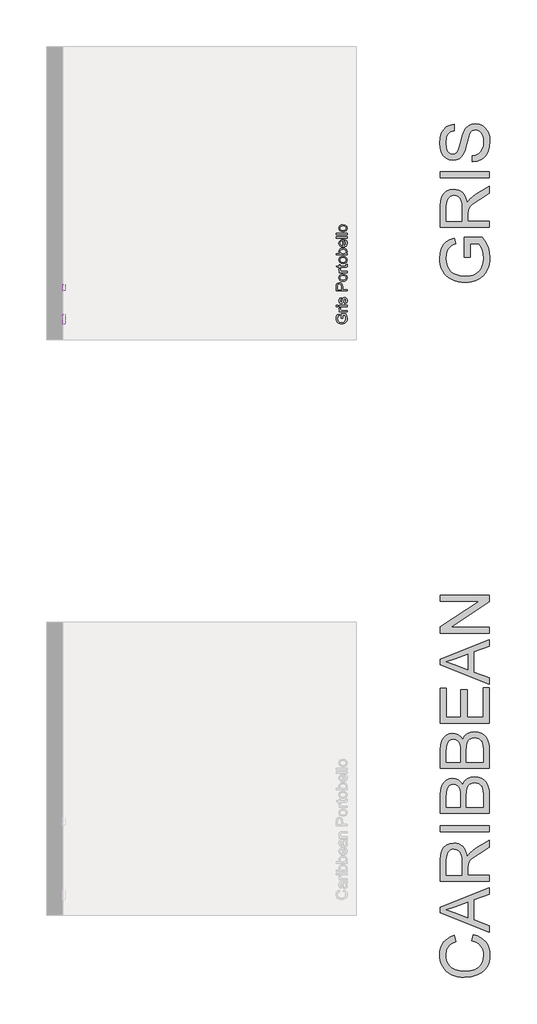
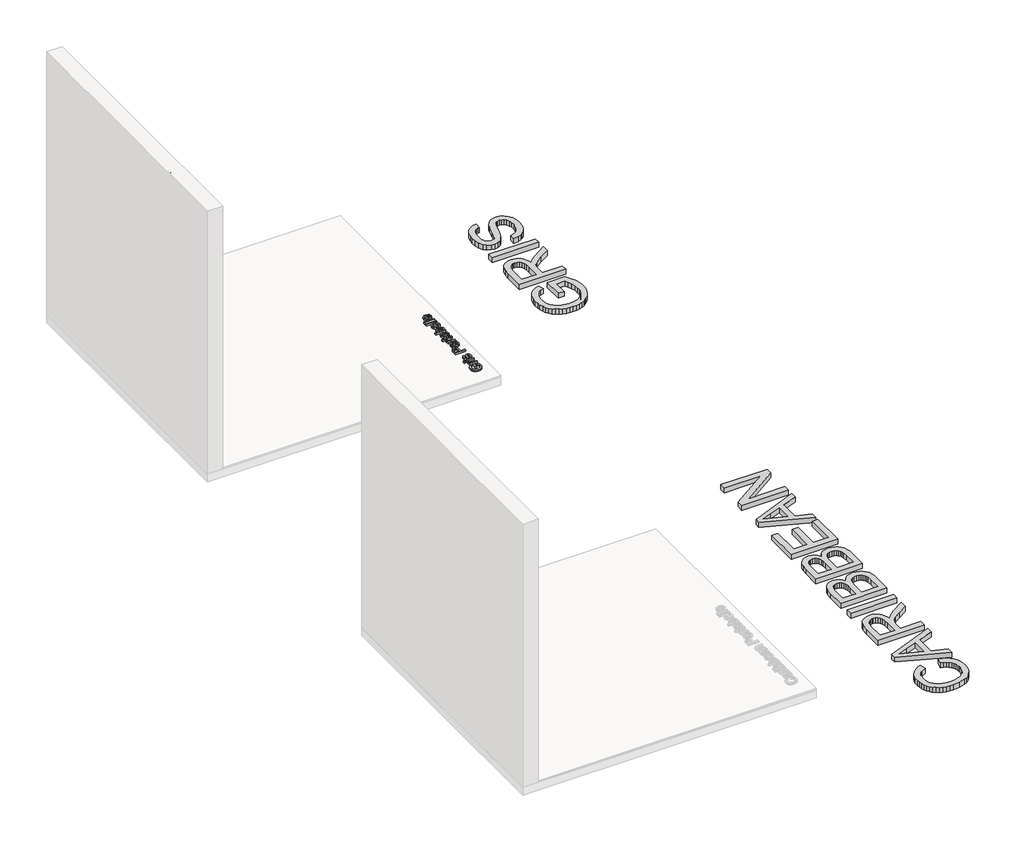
# One storey, part 4 of 7: 6 proxies.
"""IFC4 building model written with IfcOpenShell, lengths in millimetres."""

import ifcopenshell
import ifcopenshell.guid

model = None  # the IFC model being written
_history = None  # IfcOwnerHistory: only IFC2X3 demands one
_inside = {}  # id of a spatial element -> (the spatial element, [elements in it])
_under = {}  # id of a project, library or spatial element -> (it, [spatial elements below it])
_declared = {}  # id of a project -> (the project, [libraries it declares])
_typed = {}  # id of a type object -> (the type object, [elements of that type])
_made_of = {}  # id of a material, layer set ... -> (it, [elements and type objects made of it])


def new_model(schema):
    """Start an empty IFC model of exactly this schema.

    Asked for "IFC4X3", IfcOpenShell would pick the latest addendum, in which some entities
    have other attributes; the version numbers below select the first issue.
    IFC2X3 requires an IfcOwnerHistory on every rooted entity: one is made here for all.
    """
    global model, _history
    if schema == "IFC4X3":
        model = ifcopenshell.file(schema_version=(4, 3, 0, 0))
    else:
        model = ifcopenshell.file(schema=schema)
    _inside.clear()
    _under.clear()
    _declared.clear()
    _typed.clear()
    _made_of.clear()
    _history = None
    if model.schema == "IFC2X3":
        org = make("IfcOrganization", Name="unknown")
        user = make(
            "IfcPersonAndOrganization",
            ThePerson=make("IfcPerson", FamilyName="unknown"),
            TheOrganization=org,
        )
        app = make(
            "IfcApplication",
            ApplicationDeveloper=org,
            Version="unknown",
            ApplicationFullName="unknown",
            ApplicationIdentifier="unknown",
        )
        _history = make(
            "IfcOwnerHistory",
            OwningUser=user,
            OwningApplication=app,
            ChangeAction="ADDED",
            CreationDate=0,
        )
    return model


def make(cls, **values):
    """One entity of the class cls with the attributes given. An attribute that is None is left unset."""
    return model.create_entity(
        cls, **{name: value for name, value in values.items() if value is not None}
    )


def rooted(cls, **values):
    """An entity with a GlobalId (a new one), such as an element, a storey or a relation."""
    return make(cls, GlobalId=ifcopenshell.guid.new(), OwnerHistory=_history, **values)


def si_unit(unit_type, name, prefix=None):
    """IfcSIUnit, for example si_unit("LENGTHUNIT", "METRE", prefix="MILLI")."""
    return make("IfcSIUnit", UnitType=unit_type, Prefix=prefix, Name=name)


def assignment(units):
    """IfcUnitAssignment: the units of a project."""
    return None if units is None else make("IfcUnitAssignment", Units=units)


def point(xyz):
    """IfcCartesianPoint."""
    return None if xyz is None else make("IfcCartesianPoint", Coordinates=xyz)


def direction(xyz):
    """IfcDirection."""
    return None if xyz is None else make("IfcDirection", DirectionRatios=xyz)


def frame(location, z_axis=None, x_axis=None):
    """IfcAxis2Placement3D, a coordinate frame: its origin and axes. An axis left out is left unset."""
    return make(
        "IfcAxis2Placement3D",
        Location=point(location),
        Axis=direction(z_axis),
        RefDirection=direction(x_axis),
    )


def origin():
    """The frame at (0, 0, 0) with its axes left unset."""
    return frame((0.0, 0.0, 0.0))


def origin_with_axes():
    """The frame at (0, 0, 0) with the z axis (0, 0, 1) and the x axis (1, 0, 0) written out."""
    return frame((0.0, 0.0, 0.0), z_axis=(0.0, 0.0, 1.0), x_axis=(1.0, 0.0, 0.0))


def place(relative_to, where):
    """IfcLocalPlacement: puts the frame where relative to a parent placement (None: the world)."""
    return make(
        "IfcLocalPlacement", PlacementRelTo=relative_to, RelativePlacement=where
    )


def context(
    kind, dimensions, precision=None, world=None, true_north=None, identifier=None
):
    """IfcGeometricRepresentationContext, for example the 3D "Model" context."""
    return make(
        "IfcGeometricRepresentationContext",
        ContextIdentifier=identifier,
        ContextType=kind,
        CoordinateSpaceDimension=dimensions,
        Precision=precision,
        WorldCoordinateSystem=world,
        TrueNorth=true_north,
    )


def project(units=None, contexts=None):
    """IfcProject with its units and contexts."""
    return rooted(
        "IfcProject",
        Name="project",
        RepresentationContexts=contexts,
        UnitsInContext=assignment(units),
    )


def spatial(cls, under=None, at=None, **own):
    """A site, building, storey or space (cls), placed at a placement, below another one or the project."""
    s = rooted(cls, ObjectPlacement=at, **own)
    if under is not None:
        _under.setdefault(under.id(), (under, []))[1].append(s)
    return s


def polyline(points):
    """IfcPolyline through the points."""
    return make("IfcPolyline", Points=[point(p) for p in points])


def outline(outer, holes=None, kind="AREA"):
    """IfcArbitraryClosedProfileDef: a profile drawn as a closed curve; with holes, ...WithVoids."""
    if holes is None:
        return make("IfcArbitraryClosedProfileDef", ProfileType=kind, OuterCurve=outer)
    return make(
        "IfcArbitraryProfileDefWithVoids",
        ProfileType=kind,
        OuterCurve=outer,
        InnerCurves=holes,
    )


def extrude(swept, where, along, depth):
    """IfcExtrudedAreaSolid: the profile swept, set in the frame where, extruded along a direction by depth."""
    return make(
        "IfcExtrudedAreaSolid",
        SweptArea=swept,
        Position=where,
        ExtrudedDirection=direction(along),
        Depth=depth,
    )


def shape(context_of_items, identifier, shape_type, items):
    """IfcShapeRepresentation: the items that make up one representation, for example the "Body"."""
    return make(
        "IfcShapeRepresentation",
        ContextOfItems=context_of_items,
        RepresentationIdentifier=identifier,
        RepresentationType=shape_type,
        Items=items,
    )


def made_of(thing, what):
    """Note that an element or type object is made of a material, layer set ...; save() writes the relation."""
    if what is not None:
        _made_of.setdefault(what.id(), (what, []))[1].append(thing)
    return thing


def element(
    cls,
    number,
    at=None,
    inside=None,
    cuts=None,
    type_object=None,
    material=None,
    context=None,
    identifier="Body",
    shape_type=None,
    held_by="IfcProductDefinitionShape",
    body=None,
    shapes=None,
    **own,
):
    """One element of the class cls, such as IfcWall. Its Tag is "e" and its number.

    at: its placement. inside: the storey or other place that contains it. cuts: it is an
    opening in that element (IfcRelVoidsElement). A single representation is given by context,
    identifier, shape_type and body (its items); several are given by shapes. held_by: the class
    of the entity that holds the representations. save() writes the other relations.
    """
    e = rooted(cls, Tag="e%d" % number, ObjectPlacement=at, **own)
    if body is not None:
        shapes = [shape(context, identifier, shape_type, body)]
    if shapes is not None:
        e.Representation = make(held_by, Representations=shapes)
    if inside is not None:
        _inside.setdefault(inside.id(), (inside, []))[1].append(e)
    if cuts is not None:
        rooted(
            "IfcRelVoidsElement", RelatingBuildingElement=cuts, RelatedOpeningElement=e
        )
    if type_object is not None:
        _typed.setdefault(type_object.id(), (type_object, []))[1].append(e)
    return made_of(e, material)


def aggregate(whole, parts):
    """IfcRelAggregates: a whole, such as a stair, and the parts it consists of."""
    return rooted("IfcRelAggregates", RelatingObject=whole, RelatedObjects=parts)


def save(model, path):
    """Write the relations noted so far, then the file.

    IfcRelAggregates (storeys below a building ...), IfcRelContainedInSpatialStructure (elements
    in a storey), IfcRelDefinesByType, IfcRelAssociatesMaterial and IfcRelDeclares: one each for
    every whole, place, type object, material and project.
    """
    for whole, parts in _under.values():
        aggregate(whole, parts)
    for where, things in _inside.values():
        rooted(
            "IfcRelContainedInSpatialStructure",
            RelatedElements=things,
            RelatingStructure=where,
        )
    for kind, things in _typed.values():
        rooted("IfcRelDefinesByType", RelatedObjects=things, RelatingType=kind)
    for what, things in _made_of.values():
        rooted("IfcRelAssociatesMaterial", RelatedObjects=things, RelatingMaterial=what)
    for by, libraries in _declared.values():
        rooted("IfcRelDeclares", RelatingContext=by, RelatedDefinitions=libraries)
    model.write(path)


model = new_model("IFC4")

# Units and contexts
model_context = context("Model", 3, world=origin())
ifc_project = project(units=[si_unit("LENGTHUNIT", "METRE", prefix="MILLI")], contexts=[model_context])

# Site, building, storey
site = spatial("IfcSite", under=ifc_project)
building = spatial("IfcBuilding", under=site)
storey = spatial("IfcBuildingStorey", under=building, Name="PORTOBELLO - SHOWROOM", Elevation=0.0)

# Proxies
placement = place(None, origin())
element("IfcBuildingElementProxy", 1, Name="10mm Arial", ObjectType="10mm Arial", at=placement, inside=storey, context=model_context, shape_type="SweptSolid", body=[
    extrude(outline(polyline([(-1938.1705708, 2517.4669111), (-1938.1705708, 2530.0239499), (-1897.3601948, 2530.0239499), (-1897.3601948, 2492.4754609), (-1917.5078654, 2480.6296606), (-1938.808233, 2476.6565351), (-1952.8950477, 2478.235362), (-1965.6268304, 2482.9718427), (-1976.2034378, 2490.7004303), (-1983.8247264, 2501.2555778), (-1988.4324484, 2513.9168498), (-1989.9683558, 2527.9638107), (-1988.4385798, 2542.1119391), (-1983.8492519, 2555.2729175), (-1976.3904444, 2566.312443), (-1966.2522298, 2574.0962129), (-1953.9036575, 2578.7131319), (-1939.8137771, 2580.2521049), (-1920.1688785, 2576.6836496), (-1906.3978292, 2566.7508357), (-1898.8071973, 2550.1348323), (-1910.3832175, 2546.8729452), (-1916.1099139, 2558.4857535), (-1925.8955749, 2565.1812059), (-1940.0099808, 2567.6950662), (-1956.086424, 2564.9850021), (-1967.024782, 2557.8726169), (-1973.4872424, 2548.1973204), (-1977.411317, 2528.4788455), (-1972.6901647, 2506.5898668), (-1958.9559036, 2493.4932677), (-1939.8137771, 2489.2135739), (-1922.6336879, 2492.4386727), (-1909.9172336, 2499.318066), (-1909.9172336, 2517.4669111), (-1938.1705708, 2517.4669111)])), frame((74564.1689403, 0.0, 0.0), z_axis=(1.0, 0.0, 0.0), x_axis=(0.0, 1.0, 0.0)), (0.0, 0.0, 1.0), 20.0),
    extrude(outline(polyline([(-1878.5246367, 2478.2261649), (-1878.5246367, 2551.9987677), (-1867.5372278, 2551.9987677), (-1867.5372278, 2541.0849352), (-1859.7381295, 2551.1403764), (-1851.8899802, 2553.5683975), (-1839.2838905, 2549.6933739), (-1843.4777453, 2538.4361848), (-1852.3069132, 2541.0113588), (-1859.4070357, 2538.5342867), (-1863.9319842, 2531.6671561), (-1865.9675979, 2517.0009272), (-1865.9675979, 2478.2261649), (-1878.5246367, 2478.2261649)])), frame((74564.1689403, 0.0, 0.0), z_axis=(1.0, 0.0, 0.0), x_axis=(0.0, 1.0, 0.0)), (0.0, 0.0, 1.0), 20.0),
    extrude(outline(polyline([(74584.1689403, -1818.8787025), (74584.1689403, -1831.4357413), (74564.1689403, -1831.4357413), (74564.1689403, -1818.8787025), (74584.1689403, -1818.8787025)])), frame((0.0, 0.0, 2566.1254363), z_axis=(0.0, 0.0, 1.0), x_axis=(1.0, 0.0, 0.0)), (0.0, 0.0, 1.0), 12.5570388),
    extrude(outline(polyline([(74584.1689403, -1818.8787025), (74584.1689403, -1831.4357413), (74564.1689403, -1831.4357413), (74564.1689403, -1818.8787025), (74584.1689403, -1818.8787025)])), frame((0.0, 0.0, 2478.2261649), z_axis=(0.0, 0.0, 1.0), x_axis=(1.0, 0.0, 0.0)), (0.0, 0.0, 1.0), 73.7726028),
    extrude(outline(polyline([(-1804.7520339, 2500.2009828), (-1792.1949951, 2501.7706126), (-1786.3824596, 2492.4509354), (-1773.0651314, 2489.2135739), (-1760.262838, 2492.1811553), (-1756.0935087, 2499.1463877), (-1760.2873634, 2504.787245), (-1773.2122842, 2508.3679631), (-1792.1214187, 2514.5115924), (-1800.3742382, 2521.6852913), (-1803.1824041, 2531.8143089), (-1800.9260612, 2541.1707743), (-1794.7701691, 2548.3199477), (-1786.7871298, 2552.0355559), (-1775.9836619, 2553.5683975), (-1760.7042964, 2551.1035882), (-1750.9922117, 2544.4326613), (-1746.6757296, 2533.1632095), (-1759.2327684, 2531.5935797), (-1763.9539207, 2538.5220239), (-1775.0026432, 2541.0113588), (-1787.0201217, 2538.6323885), (-1790.6253653, 2533.0896331), (-1789.1293119, 2529.4353387), (-1784.4449478, 2526.663961), (-1773.6292171, 2523.9906851), (-1755.1983292, 2518.0800477), (-1746.6389414, 2511.3845954), (-1743.5364699, 2500.4707629), (-1747.1785017, 2488.4532844), (-1757.687664, 2479.7344811), (-1773.2368097, 2476.6565351), (-1785.8980817, 2478.1403258), (-1795.1380511, 2482.5916979), (-1801.3062059, 2489.9616006), (-1804.7520339, 2500.2009828)])), frame((74564.1689403, 0.0, 0.0), z_axis=(1.0, 0.0, 0.0), x_axis=(0.0, 1.0, 0.0)), (0.0, 0.0, 1.0), 20.0),
])
element("IfcBuildingElementProxy", 2, Name="10mm Arial", ObjectType="10mm Arial", at=placement, inside=storey, context=model_context, shape_type="SweptSolid", body=[
    extrude(outline(polyline([(77142.4568414, -1934.878451), (77129.8998026, -1934.878451), (77129.8998026, -1894.068075), (77167.4482916, -1894.068075), (77179.2940919, -1914.2157456), (77183.2672174, -1935.5161131), (77181.6883905, -1949.6029278), (77176.9519098, -1962.3347105), (77169.2233222, -1972.9113179), (77158.6681747, -1980.5326066), (77146.0069027, -1985.1403286), (77131.9599418, -1986.6762359), (77117.8118134, -1985.1464599), (77104.650835, -1980.557132), (77093.6113095, -1973.0983246), (77085.8275396, -1962.9601099), (77081.2106206, -1950.6115376), (77079.6716476, -1936.5216572), (77083.2401029, -1916.8767587), (77093.1729168, -1903.1057093), (77109.7889202, -1895.5150775), (77113.0508073, -1907.0910976), (77101.4379989, -1912.817794), (77094.7425466, -1922.6034551), (77092.2286863, -1936.7178609), (77094.9387504, -1952.7943041), (77102.0511356, -1963.7326621), (77111.7264321, -1970.1951225), (77131.444907, -1974.1191971), (77153.3338857, -1969.3980448), (77166.4304848, -1955.6637837), (77170.7101786, -1936.5216572), (77167.4850798, -1919.341568), (77160.6056865, -1906.6251137), (77142.4568414, -1906.6251137), (77142.4568414, -1934.878451)])), frame((0.0, 0.0, 15.0), z_axis=(0.0, 0.0, 1.0), x_axis=(1.0, 0.0, 0.0)), (0.0, 0.0, 1.0), 20.0),
    extrude(outline(polyline([(77181.6975876, -1875.2325168), (77107.9249848, -1875.2325168), (77107.9249848, -1864.2451079), (77118.8388173, -1864.2451079), (77108.7833761, -1856.4460096), (77106.355355, -1848.5978604), (77110.2303786, -1835.9917707), (77121.4875677, -1840.1856254), (77118.9123937, -1849.0147933), (77121.3894658, -1856.1149158), (77128.2565964, -1860.6398643), (77142.9228253, -1862.675478), (77181.6975876, -1862.675478), (77181.6975876, -1875.2325168)])), frame((0.0, 0.0, 15.0), z_axis=(0.0, 0.0, 1.0), x_axis=(1.0, 0.0, 0.0)), (0.0, 0.0, 1.0), 20.0),
    extrude(outline(polyline([(77093.7983162, -1828.1436214), (77081.2412774, -1828.1436214), (77081.2412774, -1815.5865827), (77093.7983162, -1815.5865827), (77093.7983162, -1828.1436214)])), frame((0.0, 0.0, 15.0), z_axis=(0.0, 0.0, 1.0), x_axis=(1.0, 0.0, 0.0)), (0.0, 0.0, 1.0), 20.0),
    extrude(outline(polyline([(77181.6975876, -1828.1436214), (77107.9249848, -1828.1436214), (77107.9249848, -1815.5865827), (77181.6975876, -1815.5865827), (77181.6975876, -1828.1436214)])), frame((0.0, 0.0, 15.0), z_axis=(0.0, 0.0, 1.0), x_axis=(1.0, 0.0, 0.0)), (0.0, 0.0, 1.0), 20.0),
    extrude(outline(polyline([(77159.7227697, -1801.4599141), (77158.1531399, -1788.9028753), (77167.4728171, -1783.0903398), (77170.7101786, -1769.7730115), (77167.7425972, -1756.9707181), (77160.7773648, -1752.8013888), (77155.1365075, -1756.9952436), (77151.5557894, -1769.9201643), (77145.4121601, -1788.8292989), (77138.2384612, -1797.0821183), (77128.1094436, -1799.8902842), (77118.7529782, -1797.6339413), (77111.6038047, -1791.4780492), (77107.8881966, -1783.49501), (77106.355355, -1772.691542), (77108.8201643, -1757.4121765), (77115.4910912, -1747.7000918), (77126.7605429, -1743.3836097), (77128.3301728, -1755.9406485), (77121.4017286, -1760.6618008), (77118.9123937, -1771.7105234), (77121.291364, -1783.7280019), (77126.8341193, -1787.3332454), (77130.4884138, -1785.837192), (77133.2597915, -1781.1528279), (77135.9330674, -1770.3370973), (77141.8437048, -1751.9062093), (77148.5391571, -1743.3468215), (77159.4529896, -1740.2443501), (77171.4704681, -1743.8863818), (77180.1892714, -1754.3955441), (77183.2672174, -1769.9446898), (77181.7834267, -1782.6059618), (77177.3320546, -1791.8459312), (77169.9621519, -1798.014086), (77159.7227697, -1801.4599141)])), frame((0.0, 0.0, 15.0), z_axis=(0.0, 0.0, 1.0), x_axis=(1.0, 0.0, 0.0)), (0.0, 0.0, 1.0), 20.0),
])
element("IfcBuildingElementProxy", 3, Name="10mm Arial", ObjectType="10mm Arial", at=placement, inside=storey, context=model_context, shape_type="SweptSolid", body=[
    extrude(outline(polyline([(77181.6975876, -1681.9673464), (77081.2412774, -1681.9673464), (77081.2412774, -1644.7376884), (77082.1977706, -1629.728103), (77086.8943974, -1617.5266835), (77096.6064821, -1609.6172206), (77110.303955, -1606.6251137), (77122.1436239, -1608.645399), (77132.0089927, -1614.7062549), (77138.6676569, -1626.040086), (77140.8872116, -1643.8792971), (77140.8872116, -1669.4103076), (77181.6975876, -1669.4103076), (77181.6975876, -1681.9673464)]), holes=[polyline([(77128.3301728, -1669.4103076), (77128.3301728, -1643.1435331), (77123.7193851, -1624.6513315), (77118.1704984, -1620.5494473), (77110.7454134, -1619.1821525), (77100.3466157, -1622.4072513), (77094.6567075, -1630.8808), (77093.7983162, -1643.4378387), (77093.7983162, -1669.4103076), (77128.3301728, -1669.4103076)])]), frame((0.0, 0.0, 15.0), z_axis=(0.0, 0.0, 1.0), x_axis=(1.0, 0.0, 0.0)), (0.0, 0.0, 1.0), 20.0),
    extrude(outline(polyline([(77144.8112862, -1594.068075), (77127.0241917, -1591.3518796), (77114.5223352, -1583.2032934), (77108.3971, -1573.1355894), (77106.355355, -1561.0813227), (77108.8416241, -1547.8896875), (77116.3004316, -1537.352934), (77128.1431661, -1530.4459496), (77143.7812166, -1528.1436214), (77166.1239164, -1532.2148488), (77178.7667943, -1544.0729118), (77183.2672174, -1561.0813227), (77180.7901453, -1574.4323735), (77173.358929, -1584.9568642), (77161.2678741, -1591.7902723), (77144.8112862, -1594.068075)]), holes=[polyline([(77144.7867607, -1581.5110362), (77156.1512487, -1580.0579023), (77164.2477183, -1575.6985007), (77169.0945635, -1569.1379384), (77170.7101786, -1561.0813227), (77169.0853665, -1553.0614952), (77164.2109301, -1546.5131957), (77156.0071616, -1542.1537941), (77144.3943533, -1540.7006602), (77133.3609591, -1542.1629911), (77125.3748541, -1546.5499839), (77120.5280088, -1553.1074805), (77118.9123937, -1561.0813227), (77120.5218774, -1569.1379384), (77125.3503286, -1575.6985007), (77133.4284041, -1580.0579023), (77144.7867607, -1581.5110362)])]), frame((0.0, 0.0, 15.0), z_axis=(0.0, 0.0, 1.0), x_axis=(1.0, 0.0, 0.0)), (0.0, 0.0, 1.0), 20.0),
    extrude(outline(polyline([(77181.6975876, -1514.0169528), (77107.9249848, -1514.0169528), (77107.9249848, -1503.0295439), (77118.8388173, -1503.0295439), (77108.7833761, -1495.2304456), (77106.355355, -1487.3822964), (77110.2303786, -1474.7762067), (77121.4875677, -1478.9700614), (77118.9123937, -1487.7992293), (77121.3894658, -1494.8993518), (77128.2565964, -1499.4243003), (77142.9228253, -1501.4599141), (77181.6975876, -1501.4599141), (77181.6975876, -1514.0169528)])), frame((0.0, 0.0, 15.0), z_axis=(0.0, 0.0, 1.0), x_axis=(1.0, 0.0, 0.0)), (0.0, 0.0, 1.0), 20.0),
    extrude(outline(polyline([(77171.2252134, -1440.2443501), (77182.0654696, -1438.6747202), (77183.2672174, -1448.0679738), (77181.1825528, -1458.5893989), (77175.7133738, -1463.8378487), (77161.4640778, -1465.3584276), (77120.4820236, -1465.3584276), (77120.4820236, -1474.7762067), (77110.2303786, -1474.7762067), (77107.9249848, -1474.7762067), (77107.9249848, -1465.3584276), (77089.9968689, -1465.3584276), (77082.6147035, -1452.8013888), (77107.9249848, -1452.8013888), (77107.9249848, -1440.2443501), (77120.4820236, -1440.2443501), (77120.4820236, -1452.8013888), (77161.0961958, -1452.8013888), (77167.5709189, -1452.1392012), (77169.8640501, -1449.9932229), (77170.7101786, -1445.713529), (77171.2252134, -1440.2443501)])), frame((0.0, 0.0, 15.0), z_axis=(0.0, 0.0, 1.0), x_axis=(1.0, 0.0, 0.0)), (0.0, 0.0, 1.0), 20.0),
    extrude(outline(polyline([(77144.8112862, -1430.826571), (77127.0241917, -1428.1103756), (77114.5223352, -1419.9617894), (77108.3971, -1409.8940855), (77106.355355, -1397.8398187), (77108.8416241, -1384.6481835), (77116.3004316, -1374.1114301), (77128.1431661, -1367.2044456), (77143.7812166, -1364.9021174), (77166.1239164, -1368.9733449), (77178.7667943, -1380.8314078), (77183.2672174, -1397.8398187), (77180.7901453, -1411.1908695), (77173.358929, -1421.7153602), (77161.2678741, -1428.5487683), (77144.8112862, -1430.826571)]), holes=[polyline([(77144.7867607, -1418.2695322), (77156.1512487, -1416.8163983), (77164.2477183, -1412.4569967), (77169.0945635, -1405.8964344), (77170.7101786, -1397.8398187), (77169.0853665, -1389.8199912), (77164.2109301, -1383.2716917), (77156.0071616, -1378.9122901), (77144.3943533, -1377.4591562), (77133.3609591, -1378.9214871), (77125.3748541, -1383.3084799), (77120.5280088, -1389.8659765), (77118.9123937, -1397.8398187), (77120.5218774, -1405.8964344), (77125.3503286, -1412.4569967), (77133.4284041, -1416.8163983), (77144.7867607, -1418.2695322)])]), frame((0.0, 0.0, 15.0), z_axis=(0.0, 0.0, 1.0), x_axis=(1.0, 0.0, 0.0)), (0.0, 0.0, 1.0), 20.0),
    extrude(outline(polyline([(77181.6975876, -1338.2184101), (77181.6975876, -1350.7754488), (77081.2412774, -1350.7754488), (77081.2412774, -1338.2184101), (77118.4954608, -1338.2184101), (77109.3903814, -1329.4260304), (77106.355355, -1318.4999351), (77109.0899444, -1305.9183709), (77116.7786781, -1296.1572353), (77128.734843, -1290.1607588), (77143.7076402, -1287.990255), (77160.4707964, -1290.2374008), (77172.9419961, -1296.9788384), (77180.6859121, -1306.8717984), (77183.2672174, -1318.5735115), (77179.9378854, -1329.7387301), (77169.9498892, -1338.2184101), (77181.6975876, -1338.2184101)]), holes=[polyline([(77144.2962514, -1338.2184101), (77161.8564853, -1334.7848448), (77168.4967553, -1328.2058884), (77170.7101786, -1319.652632), (77169.0792351, -1312.4053567), (77164.1864046, -1306.2126765), (77156.0623439, -1301.9636394), (77144.7377098, -1300.5472938), (77133.2475288, -1301.9053915), (77125.2154386, -1305.9796845), (77120.4881549, -1311.9792268), (77118.9123937, -1319.1130718), (77120.5433372, -1326.3603471), (77125.4361678, -1332.5530273), (77133.4130757, -1336.8020644), (77144.2962514, -1338.2184101)])]), frame((0.0, 0.0, 15.0), z_axis=(0.0, 0.0, 1.0), x_axis=(1.0, 0.0, 0.0)), (0.0, 0.0, 1.0), 20.0),
    extrude(outline(polyline([(77159.7227697, -1222.2129542), (77161.2923996, -1209.9011701), (77170.5691572, -1214.3372139), (77177.5037328, -1221.4158766), (77181.8263463, -1230.9777428), (77183.2672174, -1242.8633969), (77180.7809483, -1257.5970708), (77173.3221408, -1268.9339676), (77161.375173, -1276.1628488), (77145.4244228, -1278.5724759), (77128.9371781, -1276.1383234), (77116.6069999, -1268.8358658), (77108.9182662, -1257.6522531), (77106.355355, -1243.5746354), (77108.9121348, -1229.9354105), (77116.5824744, -1219.0369064), (77128.8881272, -1211.8907986), (77145.3508464, -1209.5087627), (77148.7353608, -1209.5823391), (77148.7353608, -1266.0154371), (77158.1347458, -1263.8418677), (77165.0447959, -1258.7926873), (77169.293833, -1251.5055581), (77170.7101786, -1242.6181422), (77168.0859537, -1230.3063581), (77159.7227697, -1222.2129542)]), holes=[polyline([(77136.178322, -1266.0154371), (77136.178322, -1222.0658014), (77124.7985056, -1227.093522), (77120.3839217, -1234.4143738), (77118.9123937, -1243.6236864), (77123.6090205, -1259.0869929), (77129.0996593, -1263.9522323), (77136.178322, -1266.0154371)])]), frame((0.0, 0.0, 15.0), z_axis=(0.0, 0.0, 1.0), x_axis=(1.0, 0.0, 0.0)), (0.0, 0.0, 1.0), 20.0),
    extrude(outline(polyline([(77181.6975876, -1196.9517239), (77081.2412774, -1196.9517239), (77081.2412774, -1184.3946851), (77181.6975876, -1184.3946851), (77181.6975876, -1196.9517239)])), frame((0.0, 0.0, 15.0), z_axis=(0.0, 0.0, 1.0), x_axis=(1.0, 0.0, 0.0)), (0.0, 0.0, 1.0), 20.0),
    extrude(outline(polyline([(77181.6975876, -1165.559127), (77081.2412774, -1165.559127), (77081.2412774, -1153.0020882), (77181.6975876, -1153.0020882), (77181.6975876, -1165.559127)])), frame((0.0, 0.0, 15.0), z_axis=(0.0, 0.0, 1.0), x_axis=(1.0, 0.0, 0.0)), (0.0, 0.0, 1.0), 20.0),
    extrude(outline(polyline([(77144.8112862, -1137.3057898), (77127.0241917, -1134.5895944), (77114.5223352, -1126.4410082), (77108.3971, -1116.3733042), (77106.355355, -1104.3190375), (77108.8416241, -1091.1274023), (77116.3004316, -1080.5906488), (77128.1431661, -1073.6836644), (77143.7812166, -1071.3813362), (77166.1239164, -1075.4525636), (77178.7667943, -1087.3106266), (77183.2672174, -1104.3190375), (77180.7901453, -1117.6700883), (77173.358929, -1128.194579), (77161.2678741, -1135.0279871), (77144.8112862, -1137.3057898)]), holes=[polyline([(77144.7867607, -1124.748751), (77156.1512487, -1123.2956171), (77164.2477183, -1118.9362155), (77169.0945635, -1112.3756532), (77170.7101786, -1104.3190375), (77169.0853665, -1096.29921), (77164.2109301, -1089.7509105), (77156.0071616, -1085.3915089), (77144.3943533, -1083.938375), (77133.3609591, -1085.4007059), (77125.3748541, -1089.7876987), (77120.5280088, -1096.3451953), (77118.9123937, -1104.3190375), (77120.5218774, -1112.3756532), (77125.3503286, -1118.9362155), (77133.4284041, -1123.2956171), (77144.7867607, -1124.748751)])]), frame((0.0, 0.0, 15.0), z_axis=(0.0, 0.0, 1.0), x_axis=(1.0, 0.0, 0.0)), (0.0, 0.0, 1.0), 20.0),
])
element("IfcBuildingElementProxy", 4, Name="10mm Arial Narrow", ObjectType="10mm Arial Narrow", at=placement, inside=storey, context=model_context, shape_type="SweptSolid", body=[
    extrude(outline(polyline([(-1683.1244071, 2478.2261649), (-1683.1244071, 2578.9447687), (-1651.8275224, 2578.9447687), (-1635.5318209, 2577.066448), (-1624.0588348, 2567.5860048), (-1619.7691563, 2550.566896), (-1621.5554647, 2538.4910704), (-1626.91439, 2528.8646766), (-1636.6581788, 2522.5634182), (-1651.599078, 2520.4629988), (-1673.3774454, 2520.4629988), (-1673.3774454, 2478.2261649), (-1683.1244071, 2478.2261649)]), holes=[polyline([(-1673.3774454, 2531.834454), (-1650.4060905, 2531.834454), (-1634.5418951, 2536.3652682), (-1629.516118, 2550.033859), (-1631.9909325, 2560.1996354), (-1637.9685613, 2565.9995852), (-1650.6345349, 2567.5733134), (-1673.3774454, 2567.5733134), (-1673.3774454, 2531.834454)])]), frame((74564.1689403, 0.0, 0.0), z_axis=(1.0, 0.0, 0.0), x_axis=(0.0, 1.0, 0.0)), (0.0, 0.0, 1.0), 20.0),
    extrude(outline(polyline([(-1611.6466883, 2514.7772711), (-1609.6922194, 2531.3680467), (-1603.8288128, 2543.3201315), (-1594.9702461, 2550.5446861), (-1584.030297, 2552.9528709), (-1573.2172614, 2550.5446861), (-1564.3333119, 2543.3201315), (-1558.3937572, 2531.558417), (-1556.4139056, 2515.5387525), (-1558.358856, 2498.3768659), (-1564.193707, 2486.2344108), (-1573.0427552, 2479.0098562), (-1584.030297, 2476.6016713), (-1594.8909251, 2479.0162019), (-1603.765356, 2486.2597935), (-1609.6763552, 2498.218224), (-1611.6466883, 2514.7772711)]), holes=[polyline([(-1601.8997266, 2514.8026538), (-1600.5956898, 2502.2509024), (-1596.6835792, 2493.3796444), (-1590.8423825, 2488.1063858), (-1583.7510871, 2486.348633), (-1577.0310139, 2488.12225), (-1571.3389406, 2493.4431012), (-1567.4553856, 2502.3302234), (-1566.1608673, 2514.8026538), (-1567.4649041, 2527.3163312), (-1571.3770147, 2536.1748979), (-1577.2182114, 2541.4481564), (-1584.3095068, 2543.2059093), (-1591.0771725, 2541.4386379), (-1596.7597273, 2536.1368238), (-1600.6147268, 2527.2687386), (-1601.8997266, 2514.8026538)])]), frame((74564.1689403, 0.0, 0.0), z_axis=(1.0, 0.0, 0.0), x_axis=(0.0, 1.0, 0.0)), (0.0, 0.0, 1.0), 20.0),
    extrude(outline(polyline([(-1484.9361868, 2486.348633), (-1483.3116932, 2476.6016713), (-1490.6726799, 2476.6016713), (-1498.9474442, 2478.7211278), (-1503.2625053, 2484.5210777), (-1504.4301101, 2499.1669029), (-1504.4301101, 2541.5814157), (-1512.5525782, 2541.5814157), (-1512.5525782, 2544.8304029), (-1514.1770718, 2539.9569221), (-1521.7411201, 2541.5814157), (-1527.8202798, 2539.2588975), (-1531.6911435, 2532.7736144), (-1533.6709951, 2517.3663078), (-1533.6709951, 2478.2261649), (-1543.4179567, 2478.2261649), (-1543.4179567, 2551.3283773), (-1533.6709951, 2551.3283773), (-1533.6709951, 2541.6321811), (-1527.4268478, 2550.7191922), (-1521.0304042, 2552.9528709), (-1512.5525782, 2551.3283773), (-1504.4301101, 2551.3283773), (-1504.4301101, 2567.5733134), (-1494.6831485, 2575.6957815), (-1494.6831485, 2551.3283773), (-1484.9361868, 2551.3283773), (-1484.9361868, 2541.5814157), (-1494.6831485, 2541.5814157), (-1494.6831485, 2496.9332241), (-1493.8201362, 2488.9376697), (-1489.2004825, 2486.348633), (-1484.9361868, 2486.348633)])), frame((74564.1689403, 0.0, 0.0), z_axis=(1.0, 0.0, 0.0), x_axis=(0.0, 1.0, 0.0)), (0.0, 0.0, 1.0), 20.0),
    extrude(outline(polyline([(-1478.4382124, 2514.7772711), (-1476.4837435, 2531.3680467), (-1470.6203369, 2543.3201315), (-1461.7617702, 2550.5446861), (-1450.821821, 2552.9528709), (-1440.0087854, 2550.5446861), (-1431.124836, 2543.3201315), (-1425.1852813, 2531.558417), (-1423.2054297, 2515.5387525), (-1425.15038, 2498.3768659), (-1430.9852311, 2486.2344108), (-1439.8342793, 2479.0098562), (-1450.821821, 2476.6016713), (-1461.6824492, 2479.0162019), (-1470.5568801, 2486.2597935), (-1476.4678793, 2498.218224), (-1478.4382124, 2514.7772711)]), holes=[polyline([(-1468.6912507, 2514.8026538), (-1467.3872139, 2502.2509024), (-1463.4751033, 2493.3796444), (-1457.6339065, 2488.1063858), (-1450.5426112, 2486.348633), (-1443.822538, 2488.12225), (-1438.1304647, 2493.4431012), (-1434.2469097, 2502.3302234), (-1432.9523913, 2514.8026538), (-1434.2564282, 2527.3163312), (-1438.1685388, 2536.1748979), (-1444.0097355, 2541.4481564), (-1451.1010309, 2543.2059093), (-1457.8686966, 2541.4386379), (-1463.5512514, 2536.1368238), (-1467.4062509, 2527.2687386), (-1468.6912507, 2514.8026538)])]), frame((74564.1689403, 0.0, 0.0), z_axis=(1.0, 0.0, 0.0), x_axis=(0.0, 1.0, 0.0)), (0.0, 0.0, 1.0), 20.0),
    extrude(outline(polyline([(-1400.4625191, 2478.2261649), (-1410.2094808, 2478.2261649), (-1410.2094808, 2578.9447687), (-1400.4625191, 2578.9447687), (-1400.4625191, 2543.5358846), (-1393.0634584, 2550.6176614), (-1383.8622251, 2552.9528709), (-1370.9804984, 2548.752032), (-1361.7031169, 2536.0226016), (-1358.2256853, 2515.3356908), (-1360.1579443, 2498.8813473), (-1365.9547213, 2486.6786082), (-1374.3278436, 2479.1209056), (-1383.9891386, 2476.6016713), (-1393.3299769, 2479.2160907), (-1400.4625191, 2486.9832008), (-1400.4625191, 2478.2261649)]), holes=[polyline([(-1400.4625191, 2515.3356908), (-1398.3811367, 2498.0881376), (-1392.4923474, 2489.3564844), (-1384.0399041, 2486.348633), (-1378.0971765, 2488.1381142), (-1372.8588191, 2493.5065579), (-1367.972647, 2514.9295674), (-1372.6811402, 2536.3652682), (-1377.9258432, 2541.495749), (-1384.2429658, 2543.2059093), (-1390.2205946, 2541.416428), (-1395.5128902, 2536.0479843), (-1400.4625191, 2515.3356908)])]), frame((74564.1689403, 0.0, 0.0), z_axis=(1.0, 0.0, 0.0), x_axis=(0.0, 1.0, 0.0)), (0.0, 0.0, 1.0), 20.0),
    extrude(outline(polyline([(-1306.2418898, 2500.9690755), (-1296.4949282, 2499.3445818), (-1300.1944585, 2489.4580153), (-1306.0134454, 2482.3381644), (-1313.7170987, 2478.0357946), (-1323.0706283, 2476.6016713), (-1334.6641823, 2479.0162019), (-1343.8083045, 2486.2597935), (-1349.7478593, 2498.0659277), (-1351.7277109, 2514.168086), (-1349.7383408, 2530.8350097), (-1343.7702305, 2543.0155389), (-1334.7561946, 2550.4685379), (-1323.629048, 2552.9528709), (-1312.9460988, 2550.5542046), (-1304.1985815, 2543.3582056), (-1298.3637304, 2531.618701), (-1296.41878, 2515.5895179), (-1296.4949282, 2512.3405307), (-1341.9807492, 2512.3405307), (-1335.9777377, 2492.8973728), (-1330.0477014, 2487.9858179), (-1322.9437147, 2486.348633), (-1312.765247, 2490.0037436), (-1306.2418898, 2500.9690755)]), holes=[polyline([(-1341.3207987, 2522.0874924), (-1306.2418898, 2522.0874924), (-1310.5061855, 2536.3525769), (-1316.3315181, 2541.4925762), (-1323.5528998, 2543.2059093), (-1335.7619846, 2537.4947989), (-1341.3207987, 2522.0874924)])]), frame((74564.1689403, 0.0, 0.0), z_axis=(1.0, 0.0, 0.0), x_axis=(0.0, 1.0, 0.0)), (0.0, 0.0, 1.0), 20.0),
    extrude(outline(polyline([(74584.1689403, -1273.7520176), (74584.1689403, -1283.4989793), (74564.1689403, -1283.4989793), (74564.1689403, -1273.7520176), (74584.1689403, -1273.7520176)])), frame((0.0, 0.0, 2478.2261649), z_axis=(0.0, 0.0, 1.0), x_axis=(1.0, 0.0, 0.0)), (0.0, 0.0, 1.0), 100.7186038),
    extrude(outline(polyline([(74584.1689403, -1247.7601199), (74584.1689403, -1257.5070816), (74564.1689403, -1257.5070816), (74564.1689403, -1247.7601199), (74584.1689403, -1247.7601199)])), frame((0.0, 0.0, 2478.2261649), z_axis=(0.0, 0.0, 1.0), x_axis=(1.0, 0.0, 0.0)), (0.0, 0.0, 1.0), 100.7186038),
    extrude(outline(polyline([(-1236.3886646, 2514.7772711), (-1234.4341958, 2531.3680467), (-1228.5707891, 2543.3201315), (-1219.7122224, 2550.5446861), (-1208.7722733, 2552.9528709), (-1197.9592377, 2550.5446861), (-1189.0752883, 2543.3201315), (-1183.1357335, 2531.558417), (-1181.1558819, 2515.5387525), (-1183.1008323, 2498.3768659), (-1188.9356834, 2486.2344108), (-1197.7847316, 2479.0098562), (-1208.7722733, 2476.6016713), (-1219.6329015, 2479.0162019), (-1228.5073324, 2486.2597935), (-1234.4183316, 2498.218224), (-1236.3886646, 2514.7772711)]), holes=[polyline([(-1226.641703, 2514.8026538), (-1225.3376661, 2502.2509024), (-1221.4255555, 2493.3796444), (-1215.5843588, 2488.1063858), (-1208.4930635, 2486.348633), (-1201.7729903, 2488.12225), (-1196.080917, 2493.4431012), (-1192.1973619, 2502.3302234), (-1190.9028436, 2514.8026538), (-1192.2068805, 2527.3163312), (-1196.118991, 2536.1748979), (-1201.9601878, 2541.4481564), (-1209.0514831, 2543.2059093), (-1215.8191489, 2541.4386379), (-1221.5017037, 2536.1368238), (-1225.3567032, 2527.2687386), (-1226.641703, 2514.8026538)])]), frame((74564.1689403, 0.0, 0.0), z_axis=(1.0, 0.0, 0.0), x_axis=(0.0, 1.0, 0.0)), (0.0, 0.0, 1.0), 20.0),
])
element("IfcBuildingElementProxy", 5, Name="450mm Arial", ObjectType="450mm Arial", at=placement, inside=storey, context=model_context, shape_type="SweptSolid", body=[
    extrude(outline(polyline([(78330.5633142, -7666.7866861), (78345.054186, -7610.5796683), (78380.0086113, -7621.7016868), (78410.5512798, -7636.5150354), (78436.6821913, -7655.019714), (78458.401346, -7677.2157226), (78475.4754627, -7702.6021931), (78487.6712603, -7730.6782572), (78494.9887389, -7761.4439149), (78497.4278984, -7794.8991663), (78495.5822334, -7829.174332), (78490.0452383, -7860.0943669), (78480.8169133, -7887.659271), (78467.8972582, -7911.8690442), (78451.4783869, -7933.0564553), (78431.7524132, -7951.5542727), (78408.7193372, -7967.3624964), (78382.3791587, -7980.4811266), (78324.3333371, -7998.1418766), (78262.1707905, -8004.0287932), (78228.2695606, -8002.3649502), (78196.6050846, -7997.3734212), (78167.1773625, -7989.0542063), (78139.9863943, -7977.4073053), (78115.481589, -7962.6934442), (78094.112356, -7945.173349), (78075.8786951, -7924.8470196), (78060.7806064, -7901.714456), (78048.9415916, -7876.5612667), (78040.4851524, -7850.1730598), (78035.411289, -7822.5498354), (78033.7200011, -7793.6915936), (78035.9087266, -7761.5434024), (78042.4749028, -7732.0642213), (78053.41853, -7705.2540501), (78068.739608, -7681.1128889), (78088.0333255, -7660.0386878), (78110.8948713, -7642.4293969), (78137.3242455, -7628.2850161), (78167.3214479, -7617.6055455), (78180.7145263, -7673.8125634), (78139.7256683, -7693.2983947), (78124.0580993, -7705.7171816), (78111.608437, -7719.9198827), (78102.1228166, -7735.9888324), (78095.3473735, -7754.0063652), (78089.927019, -7795.8871802), (78091.4296236, -7821.1021205), (78095.9374374, -7844.1626414), (78103.4504604, -7865.0687429), (78113.9686926, -7883.820425), (78127.0187107, -7900.180976), (78142.1270912, -7913.9136843), (78159.2938342, -7925.0185498), (78178.5189397, -7933.4955726), (78219.6587443, -7944.2402247), (78262.0610112, -7947.8217754), (78313.9866351, -7943.5815487), (78358.8863817, -7930.8608686), (78378.2727256, -7921.2002874), (78395.0449491, -7909.1794506), (78409.2030523, -7894.7983581), (78420.7470352, -7878.0570101), (78436.1024192, -7840.7457597), (78441.2208806, -7800.4979122), (78439.4781337, -7776.0617191), (78434.249893, -7753.5809703), (78425.5361585, -7733.0556658), (78413.3369303, -7714.4858058), (78397.7070979, -7698.3105073), (78378.7015511, -7684.9688879), (78356.3202899, -7674.4609475), (78330.5633142, -7666.7866861)])), origin_with_axes(), (0.0, 0.0, 1.0), 50.0),
    extrude(outline(polyline([(78490.4020212, -7585.65976), (78040.7458784, -7406.1705526), (78040.7458784, -7358.3067639), (78490.4020212, -7178.8175565), (78490.4020212, -7238.208175), (78349.8844765, -7289.6946816), (78349.8844765, -7474.8924142), (78490.4020212, -7526.2691415), (78490.4020212, -7585.65976)]), holes=[polyline([(78293.6774587, -7454.2538999), (78293.6774587, -7310.2234166), (78183.1296716, -7350.73199), (78096.9528962, -7382.2386582), (78173.4690904, -7410.2323878), (78293.6774587, -7454.2538999)])]), origin_with_axes(), (0.0, 0.0, 1.0), 50.0),
    extrude(outline(polyline([(78490.4020212, -7118.7682621), (78040.7458784, -7118.7682621), (78040.7458784, -6925.0077415), (78043.7785324, -6872.931171), (78052.8764945, -6835.0435792), (78069.6727323, -6807.3517427), (78095.8002132, -6785.8624386), (78128.1988385, -6772.07141), (78163.8085092, -6767.4744005), (78186.9033362, -6769.3783858), (78208.1044696, -6775.0903416), (78227.4119096, -6784.610268), (78244.8256561, -6797.938165), (78259.7899512, -6815.2455628), (78271.7490372, -6836.7039916), (78280.7029139, -6862.3134513), (78286.6515815, -6892.073942), (78310.6932551, -6860.1281565), (78368.5469629, -6814.5697338), (78490.4020212, -6739.5904502), (78490.4020212, -6804.9091526), (78397.1993685, -6863.4215364), (78335.5033841, -6905.6865791), (78317.5132961, -6921.398746), (78306.3569715, -6935.3818884), (78295.6534867, -6962.1131557), (78293.6774587, -6994.7176172), (78293.6774587, -7062.5612442), (78490.4020212, -7062.5612442), (78490.4020212, -7118.7682621)]), holes=[polyline([(78237.4704408, -7062.5612442), (78237.4704408, -6936.75413), (78235.4806905, -6900.6230075), (78229.5114393, -6872.5881106), (78219.1647373, -6851.4830341), (78204.0426343, -6836.1413725), (78185.7506532, -6826.7964069), (78165.8943165, -6823.6814183), (78151.5200853, -6825.1668699), (78138.4769284, -6829.6232247), (78116.3838379, -6847.4486437), (78107.8828009, -6861.0578502), (78101.8106316, -6878.1182445), (78096.9528962, -6922.5925962), (78096.9528962, -7062.5612442), (78237.4704408, -7062.5612442)])]), origin_with_axes(), (0.0, 0.0, 1.0), 50.0),
    extrude(outline(polyline([(78490.4020212, -6662.086242), (78040.7458784, -6662.086242), (78040.7458784, -6605.8792242), (78490.4020212, -6605.8792242), (78490.4020212, -6662.086242)])), origin_with_axes(), (0.0, 0.0, 1.0), 50.0),
    extrude(outline(polyline([(78490.4020212, -6493.4651885), (78040.7458784, -6493.4651885), (78040.7458784, -6321.8800929), (78044.0529807, -6274.6887027), (78053.9742878, -6237.8440145), (78070.7568032, -6209.6032814), (78094.6475302, -6188.2237565), (78122.7510392, -6174.762066), (78152.1719001, -6170.2748358), (78179.2462278, -6174.0485003), (78204.7013103, -6185.3694939), (78226.9727922, -6204.3201511), (78244.4963181, -6230.9828063), (78261.1278868, -6199.1330776), (78286.4320228, -6175.5991334), (78318.7345912, -6161.0670944), (78356.3614571, -6156.2230813), (78387.7171787, -6159.5301837), (78416.7949792, -6169.4514908), (78441.5227737, -6184.2579782), (78459.8284773, -6202.2206213), (78473.0843316, -6224.2176549), (78482.6625783, -6251.1273136), (78488.4671605, -6283.8278321), (78490.4020212, -6323.1974449), (78490.4020212, -6493.4651885)]), holes=[polyline([(78223.4186864, -6437.2581706), (78223.4186864, -6334.6144954), (78222.2111137, -6298.7166539), (78218.5883958, -6274.6749803), (78210.258889, -6253.6934055), (78197.7852124, -6238.6124698), (78181.3594799, -6229.5145077), (78161.1738053, -6226.4818537), (78141.5781946, -6229.3086714), (78124.5075085, -6237.7891248), (78111.1830421, -6251.5389861), (78102.8260905, -6270.1740277), (78098.4211948, -6298.7715436), (78096.9528962, -6342.408828), (78096.9528962, -6437.2581706), (78223.4186864, -6437.2581706)]), polyline([(78434.1950033, -6437.2581706), (78434.1950033, -6321.9898723), (78431.9994167, -6280.2737262), (78427.1279588, -6260.9113966), (78419.7590212, -6244.9796711), (78409.2064829, -6232.0257099), (78394.7842232, -6221.5966734), (78377.1371957, -6214.7217427), (78356.9103538, -6212.4300992), (78333.4175768, -6215.1196928), (78313.2181797, -6223.1884737), (78297.4236784, -6237.2813954), (78287.1455885, -6258.0434115), (78281.5056753, -6287.45055), (78279.6257042, -6327.4788389), (78279.6257042, -6437.2581706), (78434.1950033, -6437.2581706)])]), origin_with_axes(), (0.0, 0.0, 1.0), 50.0),
    extrude(outline(polyline([(78490.4020212, -6078.9384318), (78040.7458784, -6078.9384318), (78040.7458784, -5907.3533363), (78044.0529807, -5860.161946), (78053.9742878, -5823.3172578), (78070.7568032, -5795.0765247), (78094.6475302, -5773.6969999), (78122.7510392, -5760.2353093), (78152.1719001, -5755.7480791), (78179.2462278, -5759.5217437), (78204.7013103, -5770.8427373), (78226.9727922, -5789.7933944), (78244.4963181, -5816.4560496), (78261.1278868, -5784.606321), (78286.4320228, -5761.0723767), (78318.7345912, -5746.5403377), (78356.3614571, -5741.6963247), (78387.7171787, -5745.0034271), (78416.7949792, -5754.9247342), (78441.5227737, -5769.7312215), (78459.8284773, -5787.6938647), (78473.0843316, -5809.6908983), (78482.6625783, -5836.600557), (78488.4671605, -5869.3010754), (78490.4020212, -5908.6706883), (78490.4020212, -6078.9384318)]), holes=[polyline([(78223.4186864, -6022.7314139), (78223.4186864, -5920.0877388), (78222.2111137, -5884.1898973), (78218.5883958, -5860.1482236), (78210.258889, -5839.1666489), (78197.7852124, -5824.0857132), (78181.3594799, -5814.987751), (78161.1738053, -5811.955097), (78141.5781946, -5814.7819148), (78124.5075085, -5823.2623682), (78111.1830421, -5837.0122295), (78102.8260905, -5855.647271), (78098.4211948, -5884.2447869), (78096.9528962, -5927.8820713), (78096.9528962, -6022.7314139), (78223.4186864, -6022.7314139)]), polyline([(78434.1950033, -6022.7314139), (78434.1950033, -5907.4631156), (78431.9994167, -5865.7469696), (78427.1279588, -5846.3846399), (78419.7590212, -5830.4529144), (78409.2064829, -5817.4989533), (78394.7842232, -5807.0699167), (78377.1371957, -5800.1949861), (78356.9103538, -5797.9033425), (78333.4175768, -5800.5929362), (78313.2181797, -5808.661717), (78297.4236784, -5822.7546388), (78287.1455885, -5843.5166549), (78281.5056753, -5872.9237934), (78279.6257042, -5912.9520822), (78279.6257042, -6022.7314139), (78434.1950033, -6022.7314139)])]), origin_with_axes(), (0.0, 0.0, 1.0), 50.0),
    extrude(outline(polyline([(78490.4020212, -5664.4116751), (78040.7458784, -5664.4116751), (78040.7458784, -5341.2213225), (78096.9528962, -5341.2213225), (78096.9528962, -5608.2046573), (78230.4445636, -5608.2046573), (78230.4445636, -5355.2730769), (78286.6515815, -5355.2730769), (78286.6515815, -5608.2046573), (78434.1950033, -5608.2046573), (78434.1950033, -5334.1954453), (78490.4020212, -5334.1954453), (78490.4020212, -5664.4116751)])), origin_with_axes(), (0.0, 0.0, 1.0), 50.0),
    extrude(outline(polyline([(78490.4020212, -5302.2496597), (78040.7458784, -5122.7604523), (78040.7458784, -5074.8966637), (78490.4020212, -4895.4074563), (78490.4020212, -4954.7980748), (78349.8844765, -5006.2845813), (78349.8844765, -5191.482314), (78490.4020212, -5242.8590412), (78490.4020212, -5302.2496597)]), holes=[polyline([(78293.6774587, -5170.8437996), (78293.6774587, -5026.8133164), (78183.1296716, -5067.3218898), (78096.9528962, -5098.828558), (78173.4690904, -5126.8222876), (78293.6774587, -5170.8437996)])]), origin_with_axes(), (0.0, 0.0, 1.0), 50.0),
    extrude(outline(polyline([(78490.4020212, -4835.3581618), (78040.7458784, -4835.3581618), (78040.7458784, -4775.199088), (78396.9798099, -4540.2713181), (78040.7458784, -4540.2713181), (78040.7458784, -4484.0643002), (78490.4020212, -4484.0643002), (78490.4020212, -4544.223374), (78134.0583103, -4779.151144), (78490.4020212, -4779.151144), (78490.4020212, -4835.3581618)])), origin_with_axes(), (0.0, 0.0, 1.0), 50.0),
])
element("IfcBuildingElementProxy", 6, Name="450mm Arial", ObjectType="450mm Arial", at=placement, inside=storey, context=model_context, shape_type="SweptSolid", body=[
    extrude(outline(polyline([(78314.7550904, -1372.1748446), (78258.5480725, -1372.1748446), (78258.5480725, -1189.5020366), (78426.6202294, -1189.5020366), (78457.4956665, -1233.8940538), (78479.6436467, -1279.6857576), (78492.9818355, -1326.7673685), (78497.4278984, -1375.0291072), (78495.6611373, -1407.3145226), (78490.3608539, -1438.0836109), (78481.5270483, -1467.3363722), (78469.1597205, -1495.0728065), (78453.444123, -1520.3975261), (78434.5655086, -1542.4151433), (78412.5238771, -1561.1256581), (78387.3192287, -1576.5290706), (78359.7577552, -1588.5601993), (78330.6456487, -1597.1538626), (78299.9829091, -1602.3100606), (78267.7695364, -1604.0287932), (78235.5527331, -1602.3169218), (78204.4405844, -1597.1813074), (78174.4330902, -1588.6219501), (78145.5302505, -1576.63885), (78119.0013889, -1561.4447043), (78096.1158288, -1543.2522107), (78076.8735703, -1522.0613691), (78061.2746134, -1497.8721794), (78049.2194705, -1471.2095242), (78040.6086542, -1442.5982859), (78035.4421644, -1412.0384644), (78033.7200011, -1379.5300598), (78037.7132243, -1333.2306267), (78049.6928939, -1291.5968151), (78068.7944976, -1256.536041), (78094.1535233, -1229.9557203), (78126.9912659, -1210.2914975), (78168.5290205, -1195.9790171), (78183.1296716, -1247.7948617), (78153.5029745, -1259.3628588), (78131.149158, -1273.4283357), (78114.2980306, -1292.0359324), (78101.1794005, -1317.2302891), (78092.7401144, -1347.2686587), (78089.927019, -1380.4082945), (78092.959673, -1419.2015658), (78102.0576351, -1452.3686464), (78116.0819448, -1479.7860345), (78133.8936413, -1501.3302284), (78154.573323, -1517.8657402), (78177.2015877, -1530.2570823), (78219.6312994, -1543.4306021), (78265.4641704, -1547.8217754), (78319.2148757, -1542.538645), (78342.5189695, -1535.9347321), (78363.442224, -1526.689254), (78381.9057354, -1514.9222819), (78397.8305997, -1500.7538869), (78411.2168169, -1484.184069), (78422.0643872, -1465.2128282), (78436.4317572, -1423.6201839), (78441.2208806, -1379.5300598), (78437.611885, -1340.5995643), (78426.7848984, -1302.6296379), (78411.8686317, -1269.6546712), (78395.9917959, -1245.7090544), (78314.7550904, -1245.7090544), (78314.7550904, -1372.1748446)])), origin_with_axes(), (0.0, 0.0, 1.0), 50.0),
    extrude(outline(polyline([(78490.4020212, -1098.1656326), (78040.7458784, -1098.1656326), (78040.7458784, -904.405112), (78043.7785324, -852.3285415), (78052.8764945, -814.4409497), (78069.6727323, -786.7491132), (78095.8002132, -765.2598091), (78128.1988385, -751.4687805), (78163.8085092, -746.871771), (78186.9033362, -748.7757563), (78208.1044696, -754.4877121), (78227.4119096, -764.0076386), (78244.8256561, -777.3355355), (78259.7899512, -794.6429333), (78271.7490372, -816.1013621), (78280.7029139, -841.7108218), (78286.6515815, -871.4713125), (78310.6932551, -839.525527), (78368.5469629, -793.9671043), (78490.4020212, -718.9878207), (78490.4020212, -784.3065231), (78397.1993685, -842.8189069), (78335.5033841, -885.0839497), (78317.5132961, -900.7961165), (78306.3569715, -914.7792589), (78295.6534867, -941.5105262), (78293.6774587, -974.1149877), (78293.6774587, -1041.9586147), (78490.4020212, -1041.9586147), (78490.4020212, -1098.1656326)]), holes=[polyline([(78237.4704408, -1041.9586147), (78237.4704408, -916.1515005), (78235.4806905, -880.020378), (78229.5114393, -851.9854811), (78219.1647373, -830.8804046), (78204.0426343, -815.538743), (78185.7506532, -806.1937774), (78165.8943165, -803.0787888), (78151.5200853, -804.5642404), (78138.4769284, -809.0205952), (78116.3838379, -826.8460142), (78107.8828009, -840.4552207), (78101.8106316, -857.515615), (78096.9528962, -901.9899667), (78096.9528962, -1041.9586147), (78237.4704408, -1041.9586147)])]), origin_with_axes(), (0.0, 0.0, 1.0), 50.0),
    extrude(outline(polyline([(78490.4020212, -641.4836125), (78040.7458784, -641.4836125), (78040.7458784, -585.2765947), (78490.4020212, -585.2765947), (78490.4020212, -641.4836125)])), origin_with_axes(), (0.0, 0.0, 1.0), 50.0),
    extrude(outline(polyline([(78335.8327221, -493.9401907), (78335.8327221, -437.7331728), (78367.0237747, -431.2836371), (78392.0946296, -419.6195831), (78411.9921335, -401.4236588), (78427.6631331, -375.3785124), (78437.8314437, -343.5425062), (78441.2208806, -307.9740027), (78438.6547887, -276.6594483), (78430.956513, -249.2420602), (78418.7710072, -227.0254679), (78402.7432248, -211.3133011), (78384.3414643, -201.9683355), (78365.0340243, -198.8533469), (78346.2205913, -201.1861577), (78329.9595278, -208.1845901), (78316.0861648, -222.4010136), (78304.4358332, -246.3877976), (78282.9739738, -328.2282894), (78268.7712728, -381.9515499), (78255.2546926, -416.3262031), (78236.3452027, -444.3062103), (78213.4287672, -464.1351021), (78186.9993931, -475.9501027), (78157.5510873, -479.8884362), (78124.6310102, -475.0169783), (78093.9339646, -460.4026048), (78067.916263, -436.4295432), (78049.0342179, -403.4820213), (78037.5485553, -363.934017), (78033.7200011, -320.1595085), (78037.7269467, -272.7348372), (78049.7477836, -231.2382498), (78069.5355081, -197.1517673), (78096.8431169, -171.9574107), (78129.9690302, -156.0119627), (78167.2116685, -149.6722063), (78167.2116685, -205.8792242), (78149.2764702, -209.6391663), (78133.6740827, -216.1984813), (78120.404506, -225.5571694), (78109.46774, -237.7152304), (78100.9186746, -252.8990842), (78094.8121992, -271.3351507), (78089.927019, -317.9639219), (78094.7573096, -365.6904863), (78100.7951728, -383.934439), (78109.2481814, -398.432172), (78130.5728166, -417.3691068), (78142.7377388, -422.1033404), (78155.9043974, -423.6814183), (78177.5034809, -419.2079106), (78194.8760601, -405.7873873), (78210.4098356, -374.0611604), (78226.272949, -314.0118659), (78241.3401623, -252.0414332), (78254.4862373, -214.5517914), (78274.8777481, -182.5099489), (78300.0446599, -160.1561325), (78329.7125243, -147.0237799), (78363.606893, -142.6463291), (78398.2559946, -147.6824559), (78430.8467337, -162.7908365), (78458.895353, -187.3539619), (78479.918095, -220.7543236), (78493.0504476, -260.9198366), (78497.4278984, -305.778416), (78492.7073871, -360.8464733), (78478.5458533, -406.1716149), (78467.9109806, -425.3109553), (78454.8884074, -442.2752927), (78439.4781337, -457.064627), (78421.6801595, -469.6789583), (78381.2264758, -487.2710962), (78335.8327221, -493.9401907)])), origin_with_axes(), (0.0, 0.0, 1.0), 50.0),
])

save(model, "model.ifc")
